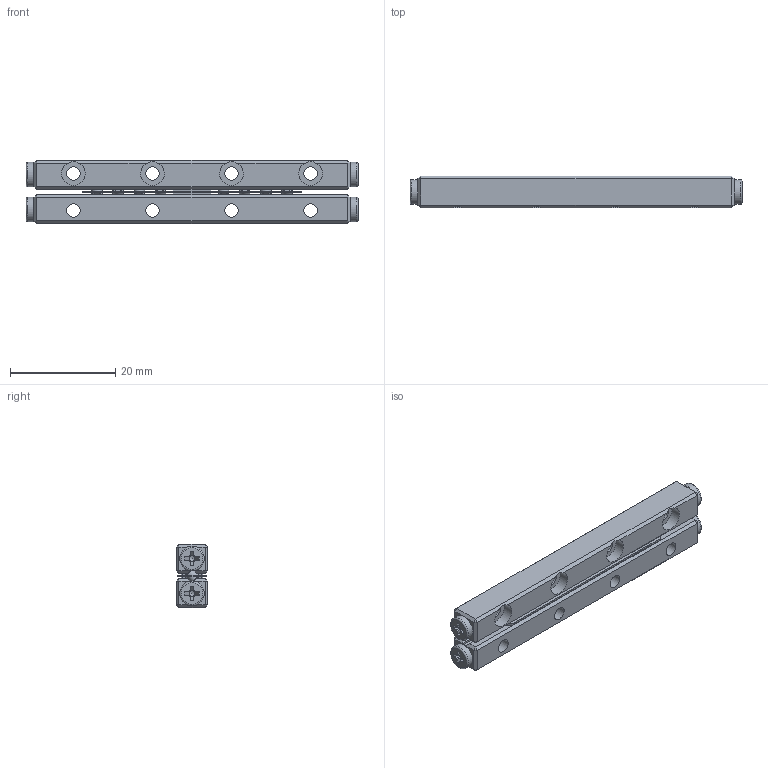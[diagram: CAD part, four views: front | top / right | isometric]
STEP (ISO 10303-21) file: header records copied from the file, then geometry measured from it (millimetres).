
FILE_DESCRIPTION (( 'STEP AP203' ), '1' );
FILE_NAME ('GRG02-0060-模糊化軌道組.STEP', '2022-10-05T05:07:59', ( '' ), ( '' ), 'SwSTEP 2.0', 'SolidWorks 2019', '' );
FILE_SCHEMA (( 'CONFIG_CONTROL_DESIGN' ));
Length unit declared in the file: millimetre
Products named in the file (1): GRG02-0060-模糊化軌道組
Bounding box: 63 x 6 x 12 mm (x, y, z)
Volume: 3539.3 mm3; surface area: 4055.8 mm2
Topology: 3 solids, 7 shells, 418 faces, 980 edges, 608 vertices
Faces by surface type: plane 312, cylinder 42, cone 40, torus 24
Full cylindrical faces by diameter (mm): 2.1 x4, 2.6 x8, 4.5 x8, 4.7 x4
Entity records: 11617 total; most frequent: CARTESIAN_POINT 2431, DIRECTION 1830, ORIENTED_EDGE 1824, EDGE_CURVE 912, LINE 624, VECTOR 624, AXIS2_PLACEMENT_3D 603, VERTEX_POINT 580
